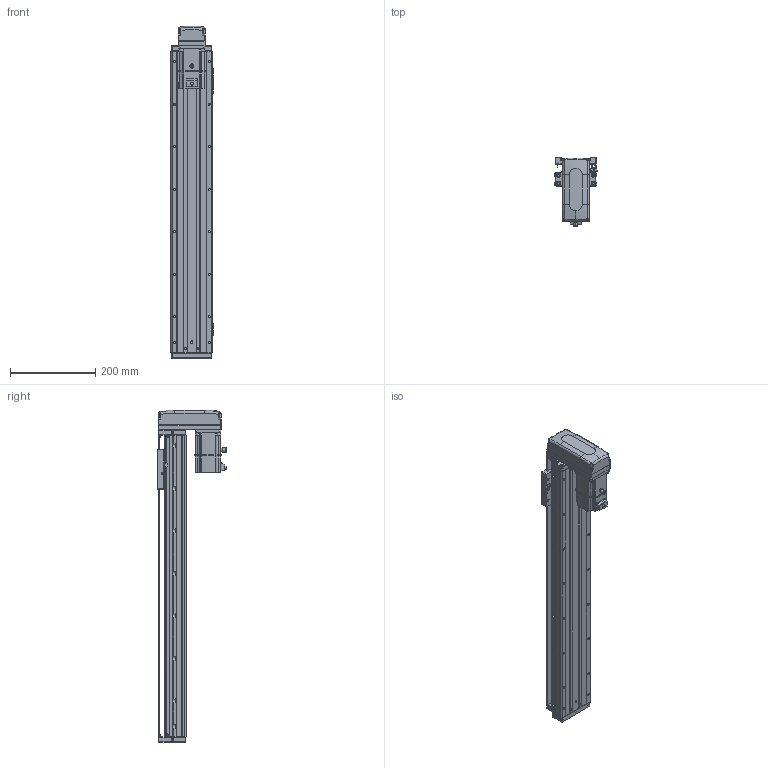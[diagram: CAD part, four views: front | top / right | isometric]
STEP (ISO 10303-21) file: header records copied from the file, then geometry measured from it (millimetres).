
FILE_DESCRIPTION (( 'STEP AP203' ), '1' );
FILE_NAME ('KTHA100-550-BM-M20-C4L.step', '2022-04-26T01:53:37', ( '微软用户' ), ( '微软中国' ), 'SwSTEP 2.0', 'SolidWorks 2020', '' );
FILE_SCHEMA (( 'CONFIG_CONTROL_DESIGN' ));
Length unit declared in the file: millimetre
Products named in the file (17): KTHA100-005; GBT70.1 M5℅16; GB¨uT 70.2-M3¡Á5_M3¡Á6; CTHA60-016; EE_SX911P_R; GBT 70.3-M3℅6; CTHA60-017; _X2_4E0983F1_X0_200W_1; KTHA100-001_710; CTHA60-021; CTHA86-015-1_CTHA86-015-2; KTHA100-002; GBT77-2000 M3×3; CTHA86-033; KTHA100-004; GBT 70.1-M3℅6; KTHA100-550-BM-M20-C4L
Assembly tree (57 placements, depth 2):
  KTHA100-550-BM-M20-C4L
    KTHA100-001_710
    KTHA100-002
    KTHA100-004
    KTHA100-005
    GB¨uT 70.2-M3¡Á5_M3¡Á6  x6
    EE_SX911P_R  x3
    CTHA60-017  x3
    CTHA60-021  x2
    GBT77-2000 M3×3  x6
    GBT 70.1-M3℅6  x10
    GBT70.1 M5℅16  x14
    CTHA60-016  x2
    GBT 70.3-M3℅6  x4
    _X2_4E0983F1_X0_200W_1
    CTHA86-015-1_CTHA86-015-2
    CTHA86-033
Bounding box: 98.82 x 163.2 x 781 mm (x, y, z)
Volume: 3514643.1 mm3; surface area: 575944.8 mm2
Topology: 60 solids, 60 shells, 2437 faces, 5833 edges, 3616 vertices
Faces by surface type: plane 1244, cylinder 677, cone 309, torus 116, bspline 75, sphere 16
Entity records: 41948 total; most frequent: CARTESIAN_POINT 8448, DIRECTION 6492, ORIENTED_EDGE 6278, EDGE_CURVE 3139, AXIS2_PLACEMENT_3D 2268, VERTEX_POINT 1976, LINE 1956, VECTOR 1956
